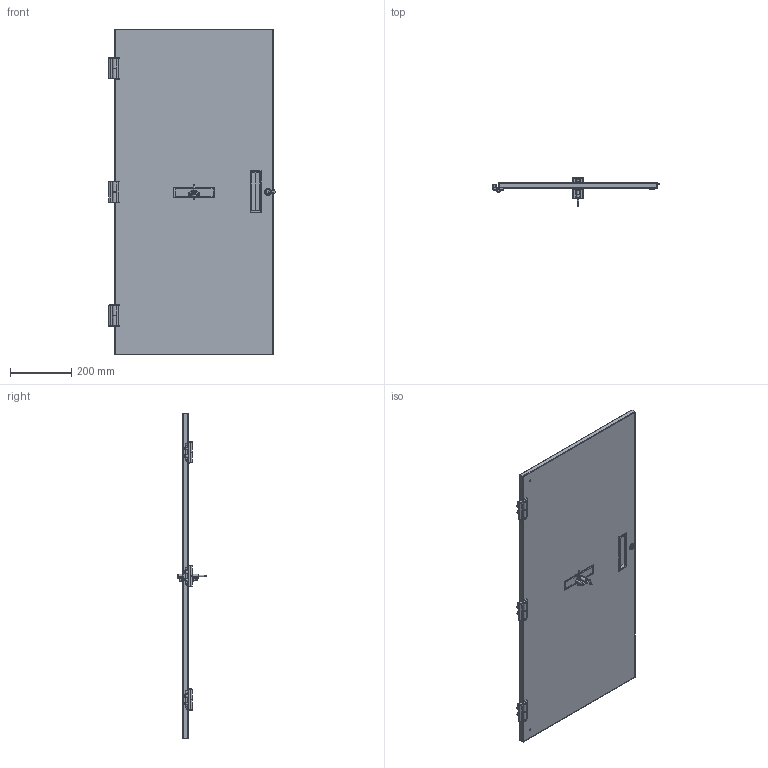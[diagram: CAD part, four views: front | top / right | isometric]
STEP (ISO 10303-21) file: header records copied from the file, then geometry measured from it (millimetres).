
FILE_DESCRIPTION( ( 'Unknown' ), '1' );
FILE_NAME( 'Q:/C4/WEB DRAWINGS/C4DF/STEP/C4DF2442S.stp', 'Unknown', ( 'Unknown' ), ( 'Unknown' ), 'PSStep 11.0', 'Unknown', ' ' );
FILE_SCHEMA( ( 'AUTOMOTIVE_DESIGN { 1 0 10303 214 1 1 1 1 }' ) );
Length unit declared in the file: inch
Products named in the file (14): Assem1; HNG14591; COM55531-9; HNG14591-1; HNG14591-1-oa0; HNG14591-2; HNG14591-2-oa1; HNG14591-3; HNG14591-4; std26020; std26020-oa2; HAN13044; LOC13312
Bounding box: 542.49 x 95.1 x 1062.05 mm (x, y, z)
Volume: 2900480.1 mm3; surface area: 3886469.2 mm2
Topology: 43 solids, 43 shells, 3211 faces, 7594 edges, 4948 vertices
Faces by surface type: plane 2222, cylinder 793, torus 70, cone 68, bspline 58
Full cylindrical faces by diameter (mm): 4.775 x6, 6 x10, 6.1 x10, 6.2 x20, 6.35 x6, 8.382 x2, 9.95 x20, 10.312 x18, 13.868 x2, 13.97 x2, 21.996 x2
Entity records: 27643 total; most frequent: CARTESIAN_POINT 4746, DIRECTION 3565, ORIENTED_EDGE 3310, EDGE_CURVE 1655, AXIS2_PLACEMENT_3D 1248, VERTEX_POINT 1088, LINE 1069, VECTOR 1069
